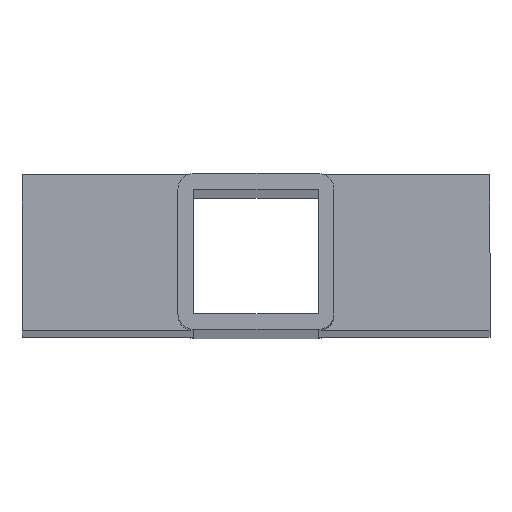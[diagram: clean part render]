
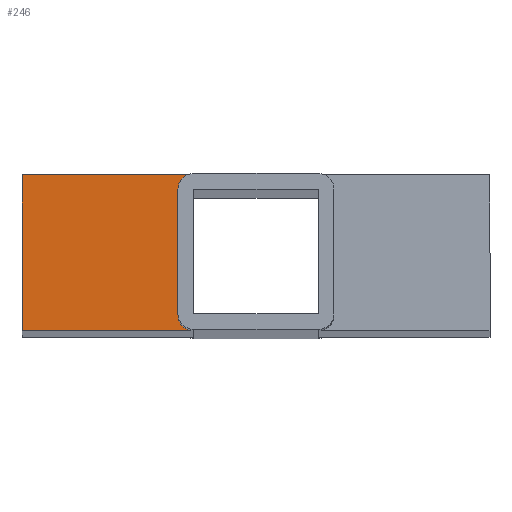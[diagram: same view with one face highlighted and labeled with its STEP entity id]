
A CAD part, top view. The second image highlights one B-rep face of the part: STEP entity #246.
In plain terms, the highlighted planar face has unit normal (0, 0, 1).
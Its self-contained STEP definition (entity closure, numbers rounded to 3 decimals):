
#9 = ORIENTED_EDGE ( 'NONE', *, *, #729, .F. ) ;
#16 = VERTEX_POINT ( 'NONE', #781 ) ;
#23 = AXIS2_PLACEMENT_3D ( 'NONE', #392, #496, #678 ) ;
#66 = VECTOR ( 'NONE', #443, 1000. ) ;
#80 = CARTESIAN_POINT ( 'NONE',  ( -45., 0., 350. ) ) ;
#120 = VECTOR ( 'NONE', #312, 1000. ) ;
#152 = DIRECTION ( 'NONE',  ( -1., 0., 0. ) ) ;
#153 = EDGE_CURVE ( 'NONE', #655, #320, #197, .T. ) ;
#164 = VERTEX_POINT ( 'NONE', #1070 ) ;
#166 = DIRECTION ( 'NONE',  ( 1., 0., 0. ) ) ;
#197 = LINE ( 'NONE', #975, #120 ) ;
#213 = CARTESIAN_POINT ( 'NONE',  ( -12., -15., 350. ) ) ;
#246 = ADVANCED_FACE ( 'NONE', ( #1071 ), #265, .T. ) ;
#265 = PLANE ( 'NONE',  #1020 ) ;
#283 = CIRCLE ( 'NONE', #23, 3. ) ;
#300 = VECTOR ( 'NONE', #1225, 1000. ) ;
#312 = DIRECTION ( 'NONE',  ( 1., 0., 0. ) ) ;
#320 = VERTEX_POINT ( 'NONE', #353 ) ;
#353 = CARTESIAN_POINT ( 'NONE',  ( -12., 15., 350. ) ) ;
#364 = CARTESIAN_POINT ( 'NONE',  ( -12., -12., 350. ) ) ;
#370 = EDGE_CURVE ( 'NONE', #16, #611, #507, .T. ) ;
#392 = CARTESIAN_POINT ( 'NONE',  ( -12., 12., 350. ) ) ;
#423 = EDGE_CURVE ( 'NONE', #164, #655, #1003, .T. ) ;
#435 = CARTESIAN_POINT ( 'NONE',  ( 0., -15., 350. ) ) ;
#443 = DIRECTION ( 'NONE',  ( 0., -1., 0. ) ) ;
#449 = VERTEX_POINT ( 'NONE', #1221 ) ;
#450 = VECTOR ( 'NONE', #152, 1000. ) ;
#496 = DIRECTION ( 'NONE',  ( 0., 0., 1. ) ) ;
#507 = CIRCLE ( 'NONE', #1045, 3. ) ;
#525 = ORIENTED_EDGE ( 'NONE', *, *, #527, .F. ) ;
#527 = EDGE_CURVE ( 'NONE', #611, #164, #956, .T. ) ;
#552 = CARTESIAN_POINT ( 'NONE',  ( 0., 0., 350. ) ) ;
#609 = ORIENTED_EDGE ( 'NONE', *, *, #370, .F. ) ;
#611 = VERTEX_POINT ( 'NONE', #213 ) ;
#655 = VERTEX_POINT ( 'NONE', #1144 ) ;
#678 = DIRECTION ( 'NONE',  ( 1., 0., 0. ) ) ;
#729 = EDGE_CURVE ( 'NONE', #320, #449, #283, .T. ) ;
#781 = CARTESIAN_POINT ( 'NONE',  ( -15., -12., 350. ) ) ;
#797 = DIRECTION ( 'NONE',  ( 1., 0., 0. ) ) ;
#800 = DIRECTION ( 'NONE',  ( 0., 0., 1. ) ) ;
#809 = CARTESIAN_POINT ( 'NONE',  ( -15., 0., 350. ) ) ;
#868 = EDGE_LOOP ( 'NONE', ( #9, #1008, #1122, #525, #609, #955 ) ) ;
#955 = ORIENTED_EDGE ( 'NONE', *, *, #994, .F. ) ;
#956 = LINE ( 'NONE', #435, #450 ) ;
#975 = CARTESIAN_POINT ( 'NONE',  ( 0., 15., 350. ) ) ;
#994 = EDGE_CURVE ( 'NONE', #449, #16, #1063, .T. ) ;
#1003 = LINE ( 'NONE', #80, #300 ) ;
#1008 = ORIENTED_EDGE ( 'NONE', *, *, #153, .F. ) ;
#1020 = AXIS2_PLACEMENT_3D ( 'NONE', #552, #1120, #166 ) ;
#1045 = AXIS2_PLACEMENT_3D ( 'NONE', #364, #800, #797 ) ;
#1063 = LINE ( 'NONE', #809, #66 ) ;
#1070 = CARTESIAN_POINT ( 'NONE',  ( -45., -15., 350. ) ) ;
#1071 = FACE_OUTER_BOUND ( 'NONE', #868, .T. ) ;
#1120 = DIRECTION ( 'NONE',  ( 0., 0., 1. ) ) ;
#1122 = ORIENTED_EDGE ( 'NONE', *, *, #423, .F. ) ;
#1144 = CARTESIAN_POINT ( 'NONE',  ( -45., 15., 350. ) ) ;
#1221 = CARTESIAN_POINT ( 'NONE',  ( -15., 12., 350. ) ) ;
#1225 = DIRECTION ( 'NONE',  ( 0., 1., 0. ) ) ;
